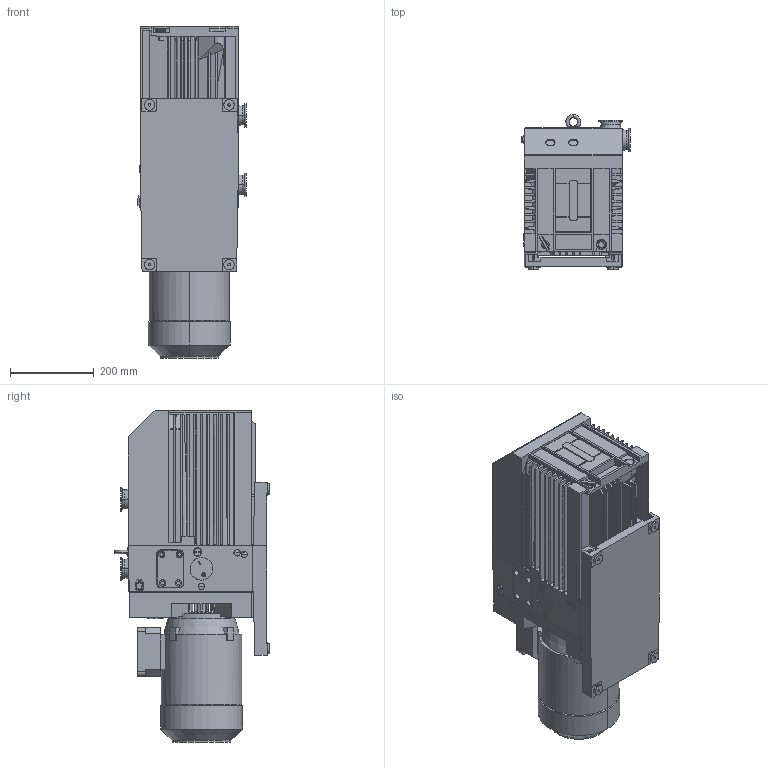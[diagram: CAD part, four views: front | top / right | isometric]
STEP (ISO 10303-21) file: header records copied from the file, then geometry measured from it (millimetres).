
FILE_DESCRIPTION((''),'2;1');
FILE_NAME('300591134_Y19_000_ASM','2016-03-09T',('56762'),('Copyright by Leybold GmbH'),'PRO/ENGINEER BY PARAMETRIC TECHNOLOGY CORPORATION, 2013320','PRO/ENGINEER BY PARAMETRIC TECHNOLOGY CORPORATION, 2013320','');
FILE_SCHEMA(('AUTOMOTIVE_DESIGN { 1 0 10303 214 1 1 1 1 }'));
Length unit declared in the file: millimetre
Products named in the file (25): 300590952_Y19_000; 300591010_Y19_000; 300591125_Y19_000; 300591129_Y19_000; 300591126_Y19_000; 300591127_Y19_000; 300591136_Y19_000; 300590949_Y19_000; 300590947_Y19_000; 300590946_Y19_000; 300591132_Y19_000_ASM; 300590939_Y19_000; 300591152_Y19_000; 300590936_Y19_000; 300590913_Y19_000; 300590922_Y19_000_ASM; 300590935_Y19_000; 300590934_Y19_000; 300590933_Y19_000; 300590931_Y19_000; 300590909_Y19_000; 300590905_Y19_000; 300590903_Y19_000; 300590892_Y19_000; 300591134_Y19_000_ASM
Assembly tree (35 placements, depth 3):
  300591134_Y19_000_ASM
    300591132_Y19_000_ASM
      300590952_Y19_000
      300591010_Y19_000
      300591125_Y19_000
      300591129_Y19_000
      300591126_Y19_000
      300591127_Y19_000
      300591136_Y19_000
      300590949_Y19_000
      300590947_Y19_000
      300590946_Y19_000
    300590939_Y19_000  x4
    300591152_Y19_000
    300590936_Y19_000
    300590922_Y19_000_ASM
      300590913_Y19_000
    300590935_Y19_000  x3
    300590934_Y19_000  x4
    300590933_Y19_000
    300590931_Y19_000  x4
    300590909_Y19_000
    300590905_Y19_000
    300590903_Y19_000
    300590892_Y19_000
Bounding box: 259.18 x 370.5 x 793.5 mm (x, y, z)
Volume: 41470003.1 mm3; surface area: 2447209.4 mm2
Topology: 34 solids, 37 shells, 1568 faces, 3977 edges, 2597 vertices
Faces by surface type: plane 974, cylinder 426, cone 113, bspline 34, sphere 10, torus 9, extrusion 2
Entity records: 43780 total; most frequent: CARTESIAN_POINT 9553, ORIENTED_EDGE 6796, DIRECTION 6768, EDGE_CURVE 3398, VECTOR 2408, LINE 2406, VERTEX_POINT 2228, AXIS2_PLACEMENT_3D 2180
